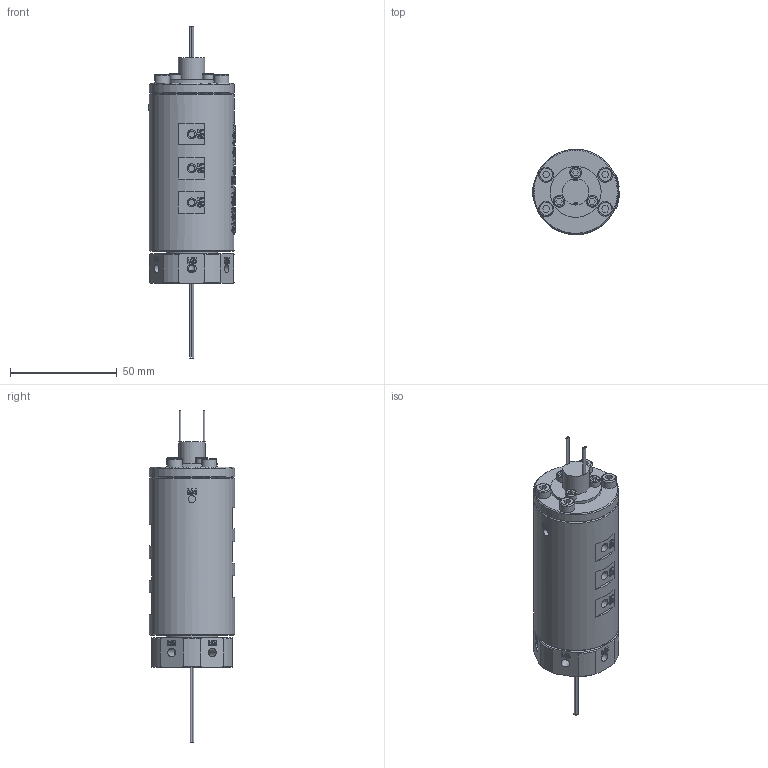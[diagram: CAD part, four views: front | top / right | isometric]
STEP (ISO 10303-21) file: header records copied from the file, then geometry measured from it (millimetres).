
FILE_DESCRIPTION(/* description */ (''),/* implementation_level */ '2;1');
FILE_NAME(/* name */ 'YQ06005-04M.stp',/* time_stamp */ '2025-09-01T15:59:25+08:00',/* author */ (''),/* organization */ (''),/* preprocessor_version */ 'ST-DEVELOPER v16.7',/* originating_system */ 'SIEMENS PLM Software NX 12.0',/* authorisation */ '');
FILE_SCHEMA (('AUTOMOTIVE_DESIGN { 1 0 10303 214 3 1 1 1 }'));
Products named in the file (1): AdmiB44865CDwd8a
Bounding box: 40.7 x 40 x 155.8 mm (x, y, z)
Volume: 116324.5 mm3; surface area: 21875.5 mm2
Topology: 1 solids, 9 shells, 1545 faces, 4187 edges, 2787 vertices
Faces by surface type: plane 677, extrusion 660, cylinder 111, bspline 61, cone 29, torus 7
Full cylindrical faces by diameter (mm): 0.8 x8, 3 x15, 3.4 x9, 4 x10, 4.1 x6, 4.2 x18, 5 x1, 5.5 x3, 6 x1, 7 x4, 12.4 x1, 23.9 x1, 24 x1, 32 x1, 40 x2
Entity records: 58008 total; most frequent: CARTESIAN_POINT 25019, ORIENTED_EDGE 8028, EDGE_CURVE 4014, DIRECTION 3992, B_SPLINE_CURVE_WITH_KNOTS 3373, VERTEX_POINT 2727, EDGE_LOOP 1809, VECTOR 1580
